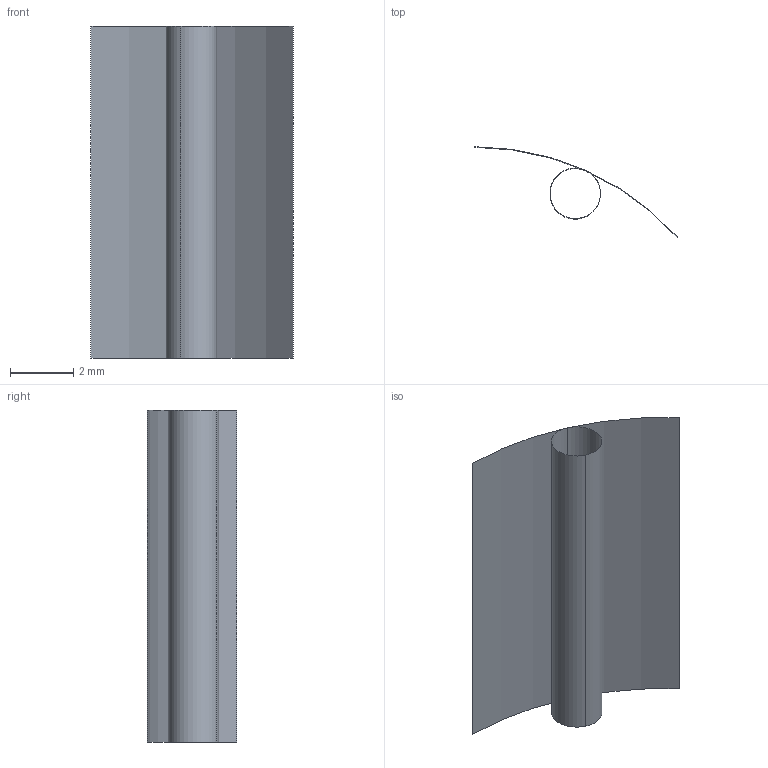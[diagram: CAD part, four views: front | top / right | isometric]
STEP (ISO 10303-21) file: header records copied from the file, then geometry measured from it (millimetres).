
FILE_DESCRIPTION(('BRL-CAD minimized invalid-corpus regression fixture'),'2;1');
FILE_NAME('nonmanifold_four_use_edge','2026-07-25T00:00:00',('BRL-CAD'),('BRL-CAD'),'','','');
FILE_SCHEMA(('AUTOMOTIVE_DESIGN { 1 0 10303 214 3 1 1 1 }'));
Length unit declared in the file: millimetre
Products named in the file (1): nonmanifold_four_use_edge
Bounding box: 6.39 x 2.85 x 10.5 mm (x, y, z)
Surface area: 128.4 mm2 (no closed solid volume)
Topology: 0 solids, 3 shells, 4 faces, 16 edges, 12 vertices
Faces by surface type: cylinder 4
Entity records: 181 total; most frequent: DIRECTION 36, CARTESIAN_POINT 32, ORIENTED_EDGE 20, EDGE_CURVE 16, AXIS2_PLACEMENT_3D 16, CIRCLE 12, VERTEX_POINT 12, CYLINDRICAL_SURFACE 4
